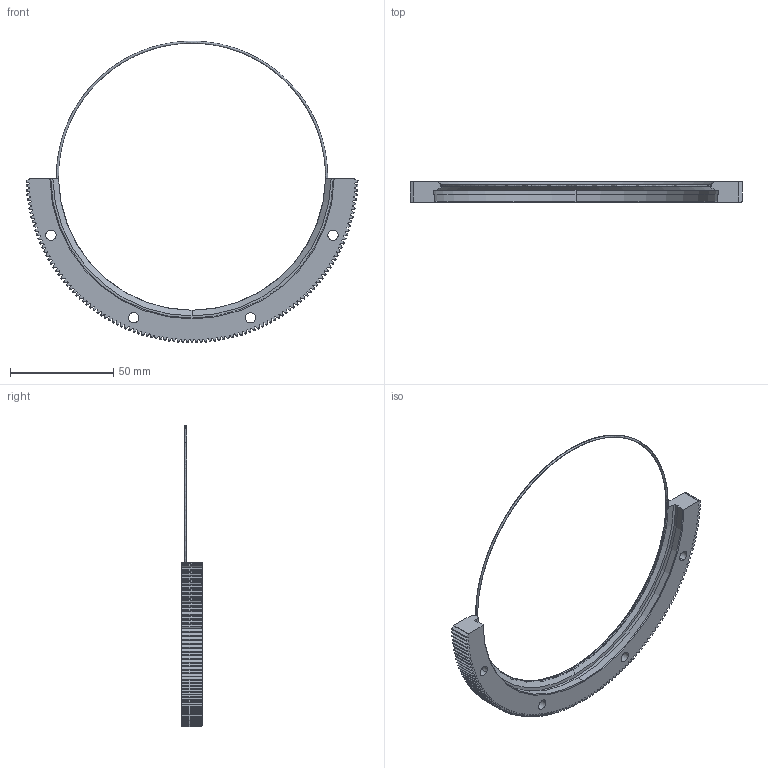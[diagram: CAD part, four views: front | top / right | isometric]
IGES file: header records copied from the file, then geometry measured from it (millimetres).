
Start section: 3D InterOp IGES (v. 2019 1.0.2), Spatial Corp. Copyright (c) 1999-2017.
Global section: file name: RIV 161 R180 P.igs; native system: Spatial Corp.; preprocessor: 3D InterOp GENERIC/IGES 3.0; author: Noname; organization: Noname; date: 20220719.140138; units: millimetre
Bounding box: 160.95 x 10 x 146.23 mm (x, y, z)
Surface area: 19270 mm2 (no closed solid volume)
Topology: 0 solids, 0 shells, 720 faces, 4286 edges, 4282 vertices
Faces by surface type: extrusion 464, revolution 256
